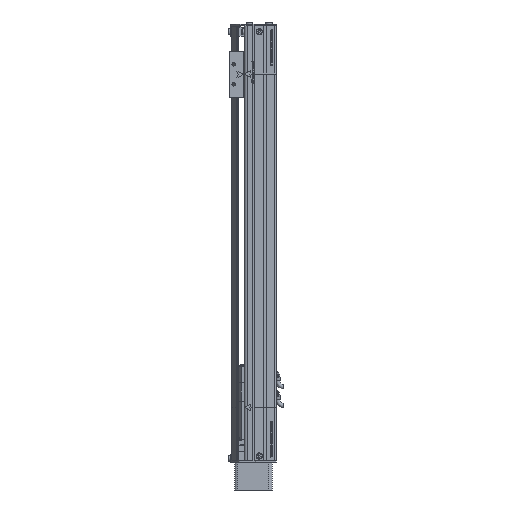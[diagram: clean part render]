
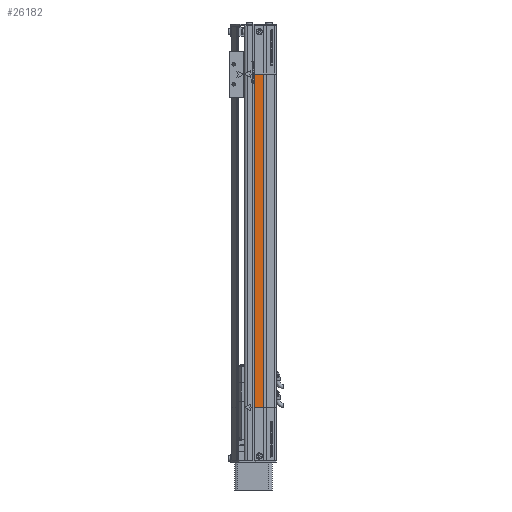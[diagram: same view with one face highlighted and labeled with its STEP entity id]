
A CAD part, left-side view. The second image highlights one B-rep face of the part: STEP entity #26182.
In plain terms, the highlighted planar face has unit normal (-1, 0, 0).
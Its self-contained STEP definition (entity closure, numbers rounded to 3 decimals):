
#11212 = PLANE ( 'NONE',  #11395 ) ;
#11244 = FACE_OUTER_BOUND ( 'NONE', #26093, .T. ) ;
#11272 = DIRECTION ( 'NONE',  ( 0., 0., -1. ) ) ;
#11274 = VECTOR ( 'NONE', #11272, 1000. ) ;
#11308 = DIRECTION ( 'NONE',  ( 0., 1., 0. ) ) ;
#11309 = DIRECTION ( 'NONE',  ( 1., 0., 0. ) ) ;
#11310 = CARTESIAN_POINT ( 'NONE',  ( -35., -2.25, 500. ) ) ;
#11363 = CARTESIAN_POINT ( 'NONE',  ( -35., -2.25, 500. ) ) ;
#11365 = LINE ( 'NONE', #11363, #11274 ) ;
#11395 = AXIS2_PLACEMENT_3D ( 'NONE', #11310, #11309, #11308 ) ;
#11396 = DIRECTION ( 'NONE',  ( 0., 0., -1. ) ) ;
#11397 = VECTOR ( 'NONE', #11396, 1000. ) ;
#11405 = CARTESIAN_POINT ( 'NONE',  ( -35., -15.75, 500. ) ) ;
#11406 = LINE ( 'NONE', #11405, #11397 ) ;
#25072 = VERTEX_POINT ( 'NONE', #67870 ) ;
#25573 = ORIENTED_EDGE ( 'NONE', *, *, #26217, .T. ) ;
#25728 = EDGE_CURVE ( 'NONE', #25828, #25839, #70356, .T. ) ;
#25767 = VERTEX_POINT ( 'NONE', #70980 ) ;
#25776 = EDGE_CURVE ( 'NONE', #25072, #25767, #71038, .T. ) ;
#25828 = VERTEX_POINT ( 'NONE', #70684 ) ;
#25839 = VERTEX_POINT ( 'NONE', #70878 ) ;
#25968 = ORIENTED_EDGE ( 'NONE', *, *, #25776, .F. ) ;
#26093 = EDGE_LOOP ( 'NONE', ( #26098, #26219, #25968, #25573 ) ) ;
#26098 = ORIENTED_EDGE ( 'NONE', *, *, #25728, .T. ) ;
#26177 = EDGE_CURVE ( 'NONE', #25767, #25839, #11406, .T. ) ;
#26182 = ADVANCED_FACE ( 'NONE', ( #11244 ), #11212, .F. ) ;
#26217 = EDGE_CURVE ( 'NONE', #25072, #25828, #11365, .T. ) ;
#26219 = ORIENTED_EDGE ( 'NONE', *, *, #26177, .F. ) ;
#67870 = CARTESIAN_POINT ( 'NONE',  ( -35., -2.25, 500. ) ) ;
#70356 = LINE ( 'NONE', #70366, #70372 ) ;
#70365 = DIRECTION ( 'NONE',  ( 0., -1., 0. ) ) ;
#70366 = CARTESIAN_POINT ( 'NONE',  ( -35., -2.25, 0. ) ) ;
#70372 = VECTOR ( 'NONE', #70365, 1000. ) ;
#70684 = CARTESIAN_POINT ( 'NONE',  ( -35., -2.25, 0. ) ) ;
#70878 = CARTESIAN_POINT ( 'NONE',  ( -35., -15.75, 0. ) ) ;
#70980 = CARTESIAN_POINT ( 'NONE',  ( -35., -15.75, 500. ) ) ;
#71026 = DIRECTION ( 'NONE',  ( 0., -1., 0. ) ) ;
#71028 = VECTOR ( 'NONE', #71026, 1000. ) ;
#71036 = CARTESIAN_POINT ( 'NONE',  ( -35., -2.25, 500. ) ) ;
#71038 = LINE ( 'NONE', #71036, #71028 ) ;
